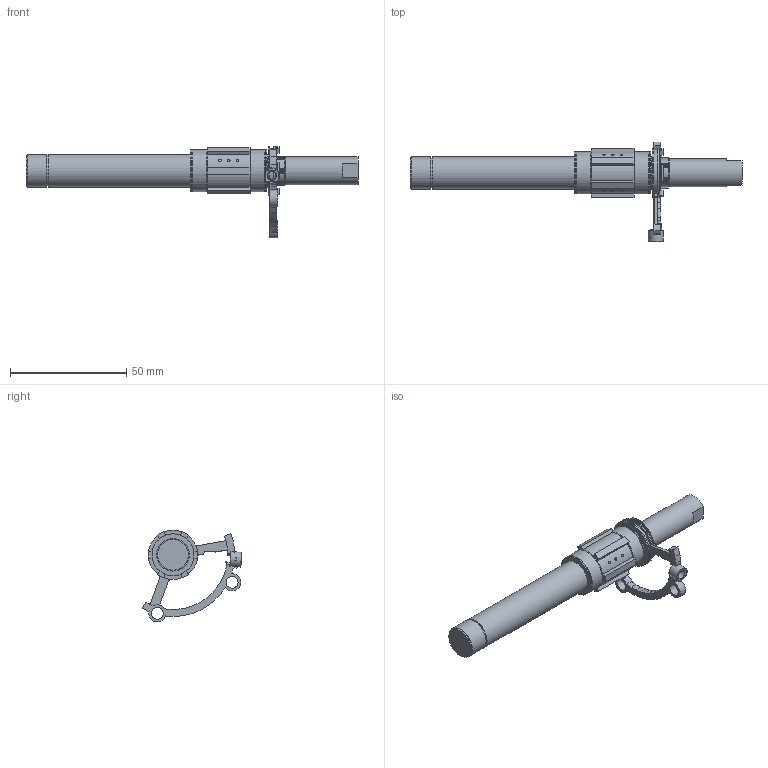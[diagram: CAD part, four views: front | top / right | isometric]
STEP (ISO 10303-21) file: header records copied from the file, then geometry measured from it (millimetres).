
FILE_DESCRIPTION(('Open CASCADE Model'),'2;1');
FILE_NAME('R12_INSTALL_02','2026-09-28T18:28:02',('Author'),( 'Open CASCADE'),'Open CASCADE STEP processor 7.9','build123d', 'Unknown');
FILE_SCHEMA(('AUTOMOTIVE_DESIGN { 1 0 10303 214 1 1 1 1 }'));
Length unit declared in the file: millimetre
Products named in the file (4): R12_INSTALL_02; U_R12_local_12mm_shaft; B3_R12_U_axis_single_sided_dog; B3_R12_U_axis_two_foot_fork
Assembly tree (3 placements, depth 2):
  R12_INSTALL_02
    U_R12_local_12mm_shaft
    B3_R12_U_axis_single_sided_dog
    B3_R12_U_axis_two_foot_fork
Bounding box: 142.5 x 42.83 x 39.41 mm (x, y, z)
Volume: 25535.9 mm3; surface area: 10392 mm2
Topology: 3 solids, 3 shells, 878 faces, 2336 edges, 1496 vertices
Faces by surface type: plane 787, cylinder 66, cone 16, sphere 9
Full cylindrical faces by diameter (mm): 1.3 x2, 4.06 x1, 4.2 x1, 5.08 x2, 6.4 x1, 7.4 x2, 11.6 x1, 12 x2, 13.2 x2, 14 x2, 14.2 x2, 17.7 x4, 18 x4, 18.8 x1, 21.2 x2
Entity records: 61033 total; most frequent: CARTESIAN_POINT 13599, DIRECTION 8807, LINE 6536, VECTOR 6536, ORIENTED_EDGE 4666, PCURVE 4666, DEFINITIONAL_REPRESENTATION 4666, EDGE_CURVE 2333
